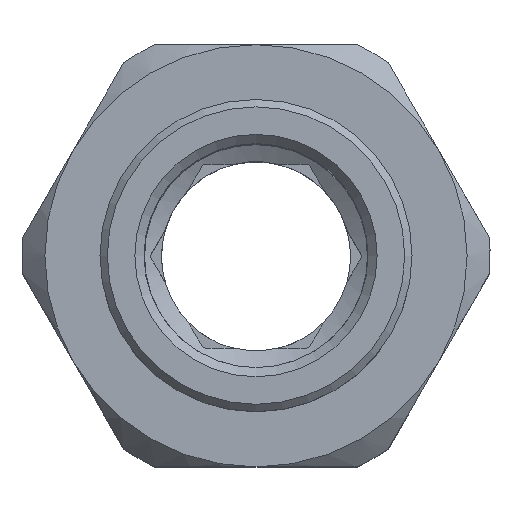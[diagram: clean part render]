
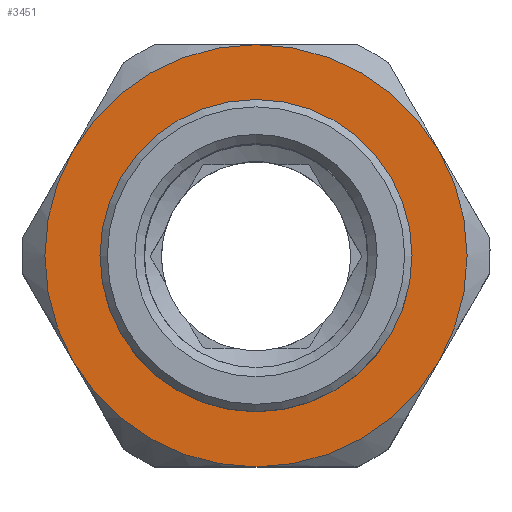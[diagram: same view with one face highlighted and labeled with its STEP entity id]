
A CAD part, top view. The second image highlights one B-rep face of the part: STEP entity #3451.
In plain terms, the highlighted planar face has unit normal (0, 0, 1) as drawn and (0, 1, 0) by its records, which use the part's own axes.
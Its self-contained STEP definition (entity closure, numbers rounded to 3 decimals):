
#925=PLANE('',#3313);
#1134=ORIENTED_EDGE('',*,*,#1582,.F.);
#1135=ORIENTED_EDGE('',*,*,#1583,.F.);
#1136=ORIENTED_EDGE('',*,*,#1584,.F.);
#1137=ORIENTED_EDGE('',*,*,#1580,.F.);
#1138=ORIENTED_EDGE('',*,*,#1585,.F.);
#1139=ORIENTED_EDGE('',*,*,#1586,.F.);
#1140=ORIENTED_EDGE('',*,*,#1587,.F.);
#1390=CIRCLE('',#3311,11.5);
#1391=CIRCLE('',#3314,11.5);
#1392=CIRCLE('',#3315,11.5);
#1393=CIRCLE('',#3316,11.5);
#1394=CIRCLE('',#3317,11.5);
#1395=CIRCLE('',#3318,11.5);
#1396=CIRCLE('',#3319,8.5);
#1471=VERTEX_POINT('',#3038);
#1474=VERTEX_POINT('',#3048);
#1475=VERTEX_POINT('',#3052);
#1476=VERTEX_POINT('',#3053);
#1477=VERTEX_POINT('',#3055);
#1478=VERTEX_POINT('',#3058);
#1479=VERTEX_POINT('',#3061);
#1580=EDGE_CURVE('',#1471,#1474,#1390,.T.);
#1582=EDGE_CURVE('',#1475,#1476,#1391,.T.);
#1583=EDGE_CURVE('',#1477,#1475,#1392,.T.);
#1584=EDGE_CURVE('',#1474,#1477,#1393,.T.);
#1585=EDGE_CURVE('',#1478,#1471,#1394,.T.);
#1586=EDGE_CURVE('',#1476,#1478,#1395,.T.);
#1587=EDGE_CURVE('',#1479,#1479,#1396,.T.);
#1697=EDGE_LOOP('',(#1134,#1135,#1136,#1137,#1138,#1139));
#1698=EDGE_LOOP('',(#1140));
#1805=FACE_BOUND('',#1697,.T.);
#1806=FACE_BOUND('',#1698,.T.);
#2650=DIRECTION('',(0.,-1.,0.));
#2651=DIRECTION('',(0.,0.,-11.5));
#2654=DIRECTION('',(0.,1.,0.));
#2655=DIRECTION('',(1.,0.,0.));
#2656=DIRECTION('',(0.,-1.,0.));
#2657=DIRECTION('',(0.,0.,11.5));
#2658=DIRECTION('',(0.,-1.,0.));
#2659=DIRECTION('',(9.959,0.,5.75));
#2660=DIRECTION('',(0.,-1.,0.));
#2661=DIRECTION('',(9.959,0.,-5.75));
#2662=DIRECTION('',(0.,-1.,0.));
#2663=DIRECTION('',(-9.959,0.,-5.75));
#2664=DIRECTION('',(0.,-1.,0.));
#2665=DIRECTION('',(-9.959,0.,5.75));
#2666=DIRECTION('',(0.,1.,0.));
#2667=DIRECTION('',(0.,0.,-8.5));
#3038=CARTESIAN_POINT('',(8.935,23.557,-11.5));
#3048=CARTESIAN_POINT('',(18.895,23.557,-5.75));
#3049=CARTESIAN_POINT('',(8.935,23.557,0.));
#3051=CARTESIAN_POINT('',(20.435,23.557,0.));
#3052=CARTESIAN_POINT('',(8.935,23.557,11.5));
#3053=CARTESIAN_POINT('',(-1.024,23.557,5.75));
#3054=CARTESIAN_POINT('',(8.935,23.557,0.));
#3055=CARTESIAN_POINT('',(18.895,23.557,5.75));
#3056=CARTESIAN_POINT('',(8.935,23.557,0.));
#3057=CARTESIAN_POINT('',(8.935,23.557,0.));
#3058=CARTESIAN_POINT('',(-1.024,23.557,-5.75));
#3059=CARTESIAN_POINT('',(8.935,23.557,0.));
#3060=CARTESIAN_POINT('',(8.935,23.557,0.));
#3061=CARTESIAN_POINT('',(8.935,23.557,-8.5));
#3062=CARTESIAN_POINT('',(8.935,23.557,0.));
#3311=AXIS2_PLACEMENT_3D('',#3049,#2650,#2651);
#3313=AXIS2_PLACEMENT_3D('',#3051,#2654,#2655);
#3314=AXIS2_PLACEMENT_3D('',#3054,#2656,#2657);
#3315=AXIS2_PLACEMENT_3D('',#3056,#2658,#2659);
#3316=AXIS2_PLACEMENT_3D('',#3057,#2660,#2661);
#3317=AXIS2_PLACEMENT_3D('',#3059,#2662,#2663);
#3318=AXIS2_PLACEMENT_3D('',#3060,#2664,#2665);
#3319=AXIS2_PLACEMENT_3D('',#3062,#2666,#2667);
#3451=ADVANCED_FACE('',(#1805,#1806),#925,.T.);
